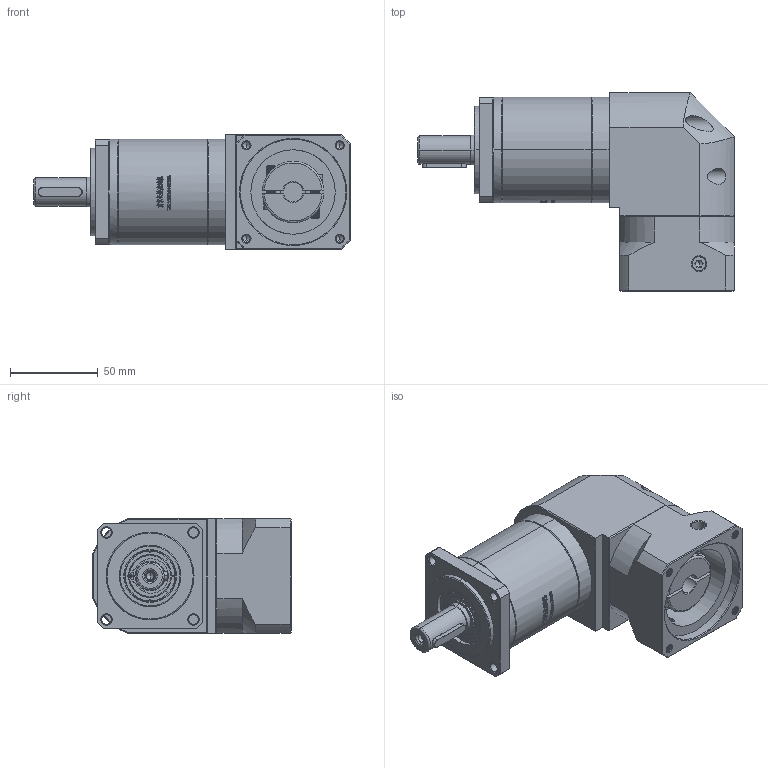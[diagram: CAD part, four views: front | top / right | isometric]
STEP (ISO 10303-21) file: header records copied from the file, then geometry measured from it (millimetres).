
FILE_DESCRIPTION (( 'STEP AP214' ), '1' );
FILE_NAME ('ZFR60-D16-L2-11-60-75-M5.STEP', '2022-04-20T08:56:12', ( '' ), ( 'Microsoft' ), 'SwSTEP 2.0', 'SolidWorks 2016', '' );
FILE_SCHEMA (( 'AUTOMOTIVE_DESIGN' ));
Length unit declared in the file: millimetre
Products named in the file (1): ZFR60-D16-L2-11-60-75-M5
Bounding box: 180 x 112.7 x 65 mm (x, y, z)
Volume: 603000.7 mm3; surface area: 83635.7 mm2
Topology: 5 solids, 6 shells, 2692 faces, 7316 edges, 4761 vertices
Faces by surface type: plane 1397, bspline 591, cylinder 402, cone 290, torus 12
Entity records: 149364 total; most frequent: CARTESIAN_POINT 57531, ORIENTED_EDGE 14588, DIRECTION 10442, EDGE_CURVE 7294, VERTEX_POINT 4761, VECTOR 4400, LINE 4400, AXIS2_PLACEMENT_3D 3021
